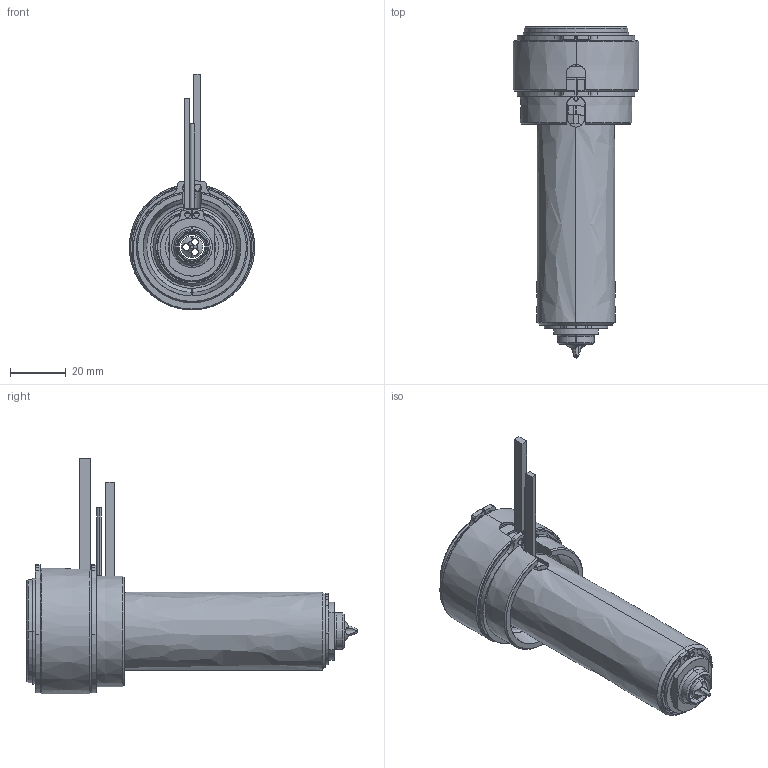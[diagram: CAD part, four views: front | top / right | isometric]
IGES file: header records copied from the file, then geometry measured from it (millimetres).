
Start section: SolidWorks IGES file using analytic representation for surfaces
Global section: file name: C:\Documents and Settings\ws-20\Desktop\TEM\UGEP4502-M-A-0 [Øf-1.17 ØC-09].IGS; native system: SolidWorks 2012; preprocessor: SolidWorks 2012; author: ws-20; date: 120424.085404; units: millimetre
Bounding box: 45 x 119.05 x 84.5 mm (x, y, z)
Surface area: 46179.8 mm2 (no closed solid volume)
Topology: 0 solids, 0 shells, 184 faces, 3501 edges, 3501 vertices
Faces by surface type: revolution 113, bspline 71
